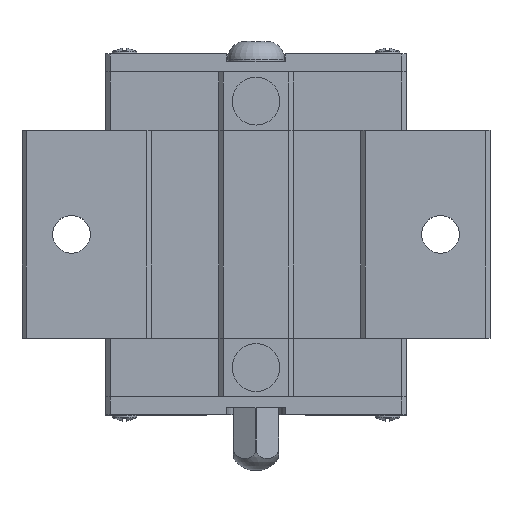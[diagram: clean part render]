
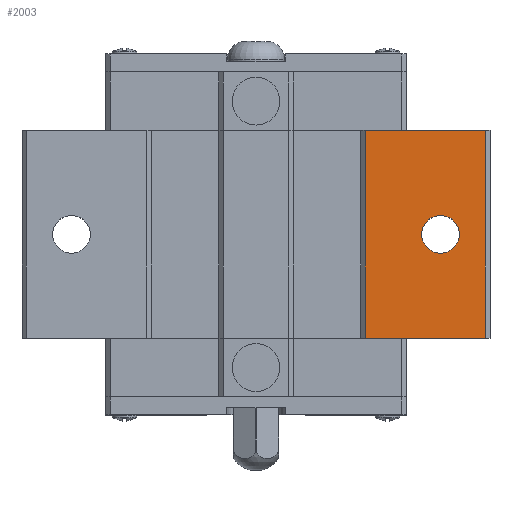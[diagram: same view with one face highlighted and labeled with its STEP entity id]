
A CAD part, top view. The second image highlights one B-rep face of the part: STEP entity #2003.
In plain terms, the highlighted planar face has unit normal (0, 0, 1).
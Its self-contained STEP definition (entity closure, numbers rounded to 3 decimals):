
#1641=EDGE_CURVE('',#2803,#3777,#4838,.T.);
#1861=EDGE_CURVE('',#2271,#3443,#5082,.T.);
#2003=ADVANCED_FACE('',(#5241,#5242),#5243,.T.);
#2271=VERTEX_POINT('',#5541);
#2803=VERTEX_POINT('',#6118);
#3443=VERTEX_POINT('',#6816);
#3747=EDGE_CURVE('',#4339,#3773,#7161,.T.);
#3773=VERTEX_POINT('',#7190);
#3777=VERTEX_POINT('',#7194);
#4339=VERTEX_POINT('',#7802);
#4397=EDGE_CURVE('',#3777,#3773,#7865,.T.);
#4535=EDGE_CURVE('',#3443,#2271,#8015,.T.);
#4691=EDGE_CURVE('',#4339,#2803,#8185,.T.);
#4838=LINE('',#8337,#8338);
#5082=CIRCLE('',#8714,2.1);
#5241=FACE_OUTER_BOUND('',#8953,.T.);
#5242=FACE_BOUND('',#8954,.T.);
#5243=PLANE('',#8955);
#5541=CARTESIAN_POINT('',(18.4,20.1,24.0));
#6118=CARTESIAN_POINT('',(12.125,31.65,24.0));
#6816=CARTESIAN_POINT('',(22.6,20.1,24.0));
#7161=LINE('',#11879,#11880);
#7190=CARTESIAN_POINT('',(25.5,8.55,24.0));
#7194=CARTESIAN_POINT('',(12.125,8.55,24.0));
#7802=CARTESIAN_POINT('',(25.5,31.65,24.0));
#7865=LINE('',#13017,#13018);
#8015=CIRCLE('',#13263,2.1);
#8185=LINE('',#13525,#13526);
#8337=CARTESIAN_POINT('',(12.125,37.425,24.0));
#8338=VECTOR('',#13789,1.0);
#8714=AXIS2_PLACEMENT_3D('',#14120,#14121,#14122);
#8953=EDGE_LOOP('',(#14314,#14315,#14316,#14317));
#8954=EDGE_LOOP('',(#14318,#14319));
#8955=AXIS2_PLACEMENT_3D('',#14320,#14321,#14322);
#11879=CARTESIAN_POINT('',(25.5,31.65,24.0));
#11880=VECTOR('',#16355,1.0);
#13017=CARTESIAN_POINT('',(25.5,8.55,24.0));
#13018=VECTOR('',#17084,1.0);
#13263=AXIS2_PLACEMENT_3D('',#17229,#17230,#17231);
#13525=CARTESIAN_POINT('',(25.5,31.65,24.0));
#13526=VECTOR('',#17382,1.0);
#13789=DIRECTION('',(0.0,-1.0,0.0));
#14120=CARTESIAN_POINT('',(20.5,20.1,24.0));
#14121=DIRECTION('',(0.0,0.0,-1.0));
#14122=DIRECTION('',(1.0,0.0,0.0));
#14314=ORIENTED_EDGE('',*,*,#1641,.T.);
#14315=ORIENTED_EDGE('',*,*,#4397,.T.);
#14316=ORIENTED_EDGE('',*,*,#3747,.F.);
#14317=ORIENTED_EDGE('',*,*,#4691,.T.);
#14318=ORIENTED_EDGE('',*,*,#4535,.T.);
#14319=ORIENTED_EDGE('',*,*,#1861,.T.);
#14320=CARTESIAN_POINT('',(-25.5,31.65,24.0));
#14321=DIRECTION('',(0.0,0.0,1.0));
#14322=DIRECTION('',(-1.0,0.0,0.0));
#16355=DIRECTION('',(0.0,-1.0,0.0));
#17084=DIRECTION('',(1.0,0.0,0.0));
#17229=CARTESIAN_POINT('',(20.5,20.1,24.0));
#17230=DIRECTION('',(0.0,0.0,-1.0));
#17231=DIRECTION('',(1.0,0.0,0.0));
#17382=DIRECTION('',(-1.0,0.0,0.0));
